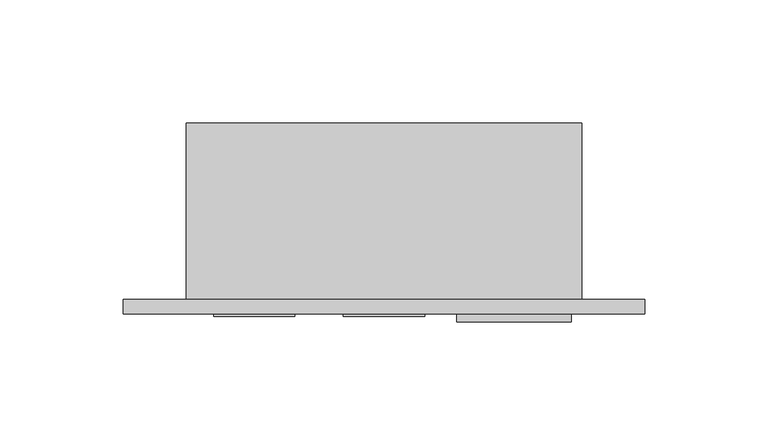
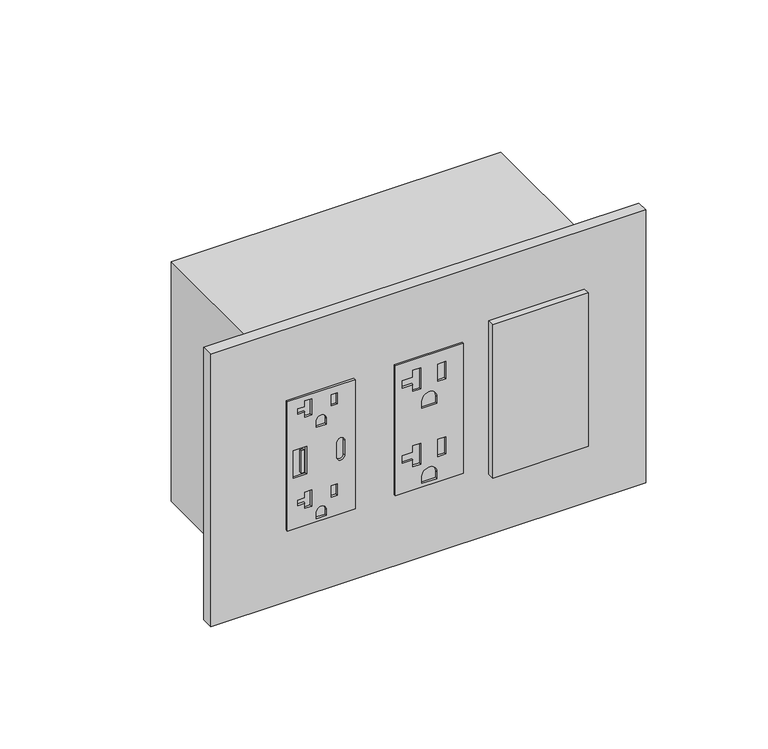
"""IFC4 building model written with IfcOpenShell, lengths in millimetres: proxy geometry, Electrical-Teknion-EPDMT_Vertical_Power_Data_Triple-R2019 : PD Vertical Module - Triple 20 Amp USB (A+C) & 20 Amp Standard."""

import ifcopenshell
import ifcopenshell.guid

model = None  # the IFC model being written
_history = None  # IfcOwnerHistory: only IFC2X3 demands one
_inside = {}  # id of a spatial element -> (the spatial element, [elements in it])
_under = {}  # id of a project, library or spatial element -> (it, [spatial elements below it])
_declared = {}  # id of a project -> (the project, [libraries it declares])
_typed = {}  # id of a type object -> (the type object, [elements of that type])
_made_of = {}  # id of a material, layer set ... -> (it, [elements and type objects made of it])


def new_model(schema):
    """Start an empty IFC model of exactly this schema.

    Asked for "IFC4X3", IfcOpenShell would pick the latest addendum, in which some entities
    have other attributes; the version numbers below select the first issue.
    IFC2X3 requires an IfcOwnerHistory on every rooted entity: one is made here for all.
    """
    global model, _history
    if schema == "IFC4X3":
        model = ifcopenshell.file(schema_version=(4, 3, 0, 0))
    else:
        model = ifcopenshell.file(schema=schema)
    _inside.clear()
    _under.clear()
    _declared.clear()
    _typed.clear()
    _made_of.clear()
    _history = None
    if model.schema == "IFC2X3":
        org = make("IfcOrganization", Name="unknown")
        user = make(
            "IfcPersonAndOrganization",
            ThePerson=make("IfcPerson", FamilyName="unknown"),
            TheOrganization=org,
        )
        app = make(
            "IfcApplication",
            ApplicationDeveloper=org,
            Version="unknown",
            ApplicationFullName="unknown",
            ApplicationIdentifier="unknown",
        )
        _history = make(
            "IfcOwnerHistory",
            OwningUser=user,
            OwningApplication=app,
            ChangeAction="ADDED",
            CreationDate=0,
        )
    return model


def make(cls, **values):
    """One entity of the class cls with the attributes given. An attribute that is None is left unset."""
    return model.create_entity(
        cls, **{name: value for name, value in values.items() if value is not None}
    )


def rooted(cls, **values):
    """An entity with a GlobalId (a new one), such as an element, a storey or a relation."""
    return make(cls, GlobalId=ifcopenshell.guid.new(), OwnerHistory=_history, **values)


def si_unit(unit_type, name, prefix=None):
    """IfcSIUnit, for example si_unit("LENGTHUNIT", "METRE", prefix="MILLI")."""
    return make("IfcSIUnit", UnitType=unit_type, Prefix=prefix, Name=name)


def assignment(units):
    """IfcUnitAssignment: the units of a project."""
    return None if units is None else make("IfcUnitAssignment", Units=units)


def point(xyz):
    """IfcCartesianPoint."""
    return None if xyz is None else make("IfcCartesianPoint", Coordinates=xyz)


def direction(xyz):
    """IfcDirection."""
    return None if xyz is None else make("IfcDirection", DirectionRatios=xyz)


def frame(location, z_axis=None, x_axis=None):
    """IfcAxis2Placement3D, a coordinate frame: its origin and axes. An axis left out is left unset."""
    return make(
        "IfcAxis2Placement3D",
        Location=point(location),
        Axis=direction(z_axis),
        RefDirection=direction(x_axis),
    )


def frame_2d(location, x_axis=None):
    """IfcAxis2Placement2D, a coordinate frame in the plane: its origin and x axis."""
    return make(
        "IfcAxis2Placement2D", Location=point(location), RefDirection=direction(x_axis)
    )


def origin():
    """The frame at (0, 0, 0) with its axes left unset."""
    return frame((0.0, 0.0, 0.0))


def place(relative_to, where):
    """IfcLocalPlacement: puts the frame where relative to a parent placement (None: the world)."""
    return make(
        "IfcLocalPlacement", PlacementRelTo=relative_to, RelativePlacement=where
    )


def context(
    kind, dimensions, precision=None, world=None, true_north=None, identifier=None
):
    """IfcGeometricRepresentationContext, for example the 3D "Model" context."""
    return make(
        "IfcGeometricRepresentationContext",
        ContextIdentifier=identifier,
        ContextType=kind,
        CoordinateSpaceDimension=dimensions,
        Precision=precision,
        WorldCoordinateSystem=world,
        TrueNorth=true_north,
    )


def project(units=None, contexts=None):
    """IfcProject with its units and contexts."""
    return rooted(
        "IfcProject",
        Name="project",
        RepresentationContexts=contexts,
        UnitsInContext=assignment(units),
    )


def spatial(cls, under=None, at=None, **own):
    """A site, building, storey or space (cls), placed at a placement, below another one or the project."""
    s = rooted(cls, ObjectPlacement=at, **own)
    if under is not None:
        _under.setdefault(under.id(), (under, []))[1].append(s)
    return s


def polyline(points):
    """IfcPolyline through the points."""
    return make("IfcPolyline", Points=[point(p) for p in points])


def circle_curve(where, radius):
    """IfcCircle in the frame where."""
    return make("IfcCircle", Position=where, Radius=radius)


def trimmed(basis, trim1, trim2, sense, master):
    """IfcTrimmedCurve: the piece of a basis curve between two trims."""
    return make(
        "IfcTrimmedCurve",
        BasisCurve=basis,
        Trim1=trim1,
        Trim2=trim2,
        SenseAgreement=sense,
        MasterRepresentation=master,
    )


def segment(curve, same_sense, transition):
    """IfcCompositeCurveSegment."""
    return make(
        "IfcCompositeCurveSegment",
        Transition=transition,
        SameSense=same_sense,
        ParentCurve=curve,
    )


def composite_curve(segments, self_intersect=None):
    """IfcCompositeCurve: segments joined end to end."""
    return make("IfcCompositeCurve", Segments=segments, SelfIntersect=self_intersect)


def outline(outer, holes=None, kind="AREA"):
    """IfcArbitraryClosedProfileDef: a profile drawn as a closed curve; with holes, ...WithVoids."""
    if holes is None:
        return make("IfcArbitraryClosedProfileDef", ProfileType=kind, OuterCurve=outer)
    return make(
        "IfcArbitraryProfileDefWithVoids",
        ProfileType=kind,
        OuterCurve=outer,
        InnerCurves=holes,
    )


def extrude(swept, where, along, depth):
    """IfcExtrudedAreaSolid: the profile swept, set in the frame where, extruded along a direction by depth."""
    return make(
        "IfcExtrudedAreaSolid",
        SweptArea=swept,
        Position=where,
        ExtrudedDirection=direction(along),
        Depth=depth,
    )


def shape(context_of_items, identifier, shape_type, items):
    """IfcShapeRepresentation: the items that make up one representation, for example the "Body"."""
    return make(
        "IfcShapeRepresentation",
        ContextOfItems=context_of_items,
        RepresentationIdentifier=identifier,
        RepresentationType=shape_type,
        Items=items,
    )


def source(mapping_origin, context_of_items, identifier, shape_type, items):
    """IfcRepresentationMap: a shape defined once, which mapped items show again and again."""
    return make(
        "IfcRepresentationMap",
        MappingOrigin=mapping_origin,
        MappedRepresentation=shape(context_of_items, identifier, shape_type, items),
    )


def transform(
    local_origin,
    x_axis=None,
    y_axis=None,
    z_axis=None,
    scale=None,
    scale2=None,
    scale3=None,
    uniform=True,
):
    """IfcCartesianTransformationOperator3D, or its non-uniform kind. x_axis, y_axis, z_axis: its Axis1, 2, 3."""
    if uniform:
        return make(
            "IfcCartesianTransformationOperator3D",
            Axis1=direction(x_axis),
            Axis2=direction(y_axis),
            LocalOrigin=point(local_origin),
            Scale=scale,
            Axis3=direction(z_axis),
        )
    return make(
        "IfcCartesianTransformationOperator3DnonUniform",
        Axis1=direction(x_axis),
        Axis2=direction(y_axis),
        LocalOrigin=point(local_origin),
        Scale=scale,
        Axis3=direction(z_axis),
        Scale2=scale2,
        Scale3=scale3,
    )


def mapped(mapping_source, mapping_target):
    """IfcMappedItem: shows the shape of a source again, moved by a transform."""
    return make(
        "IfcMappedItem", MappingSource=mapping_source, MappingTarget=mapping_target
    )


def made_of(thing, what):
    """Note that an element or type object is made of a material, layer set ...; save() writes the relation."""
    if what is not None:
        _made_of.setdefault(what.id(), (what, []))[1].append(thing)
    return thing


def element(
    cls,
    number,
    at=None,
    inside=None,
    cuts=None,
    type_object=None,
    material=None,
    context=None,
    identifier="Body",
    shape_type=None,
    held_by="IfcProductDefinitionShape",
    body=None,
    shapes=None,
    **own,
):
    """One element of the class cls, such as IfcWall. Its Tag is "e" and its number.

    at: its placement. inside: the storey or other place that contains it. cuts: it is an
    opening in that element (IfcRelVoidsElement). A single representation is given by context,
    identifier, shape_type and body (its items); several are given by shapes. held_by: the class
    of the entity that holds the representations. save() writes the other relations.
    """
    e = rooted(cls, Tag="e%d" % number, ObjectPlacement=at, **own)
    if body is not None:
        shapes = [shape(context, identifier, shape_type, body)]
    if shapes is not None:
        e.Representation = make(held_by, Representations=shapes)
    if inside is not None:
        _inside.setdefault(inside.id(), (inside, []))[1].append(e)
    if cuts is not None:
        rooted(
            "IfcRelVoidsElement", RelatingBuildingElement=cuts, RelatedOpeningElement=e
        )
    if type_object is not None:
        _typed.setdefault(type_object.id(), (type_object, []))[1].append(e)
    return made_of(e, material)


def aggregate(whole, parts):
    """IfcRelAggregates: a whole, such as a stair, and the parts it consists of."""
    return rooted("IfcRelAggregates", RelatingObject=whole, RelatedObjects=parts)


def save(model, path):
    """Write the relations noted so far, then the file.

    IfcRelAggregates (storeys below a building ...), IfcRelContainedInSpatialStructure (elements
    in a storey), IfcRelDefinesByType, IfcRelAssociatesMaterial and IfcRelDeclares: one each for
    every whole, place, type object, material and project.
    """
    for whole, parts in _under.values():
        aggregate(whole, parts)
    for where, things in _inside.values():
        rooted(
            "IfcRelContainedInSpatialStructure",
            RelatedElements=things,
            RelatingStructure=where,
        )
    for kind, things in _typed.values():
        rooted("IfcRelDefinesByType", RelatedObjects=things, RelatingType=kind)
    for what, things in _made_of.values():
        rooted("IfcRelAssociatesMaterial", RelatedObjects=things, RelatingMaterial=what)
    for by, libraries in _declared.values():
        rooted("IfcRelDeclares", RelatingContext=by, RelatedDefinitions=libraries)
    model.write(path)


def electrical_fixtures_b57f04e2(model_context):
    return source(origin(), model_context, "Body", "SweptSolid", [
        extrude(outline(polyline([(490.474, 11.0998), (423.926, 11.0998), (423.926, 44.0944), (490.474, 44.0944), (490.474, 11.0998)]), holes=[polyline([(464.2485, 14.0236066), (464.2485, 20.5246617), (450.1515, 20.5246617), (450.1515, 14.0236066), (464.2485, 14.0236066)]), composite_curve([segment(trimmed(circle_curve(frame_2d((460.9846, 37.1348)), 1.905), [point((460.9846, 35.2298))], [point((460.9846, 39.0398))], True, "CARTESIAN"), True, "CONTINUOUS"), segment(polyline([(460.9846, 39.0398), (453.4154, 39.0398)]), True, "CONTINUOUS"), segment(trimmed(circle_curve(frame_2d((453.4154, 37.1348)), 1.905), [point((453.4154, 39.0398))], [point((453.4154, 35.2298))], True, "CARTESIAN"), True, "CONTINUOUS"), segment(polyline([(453.4154, 35.2298), (460.9846, 35.2298)]), True, "CONTINUOUS")], self_intersect=False), composite_curve([segment(polyline([(425.45, 30.0609), (425.45, 25.1333), (428.5488, 25.1333)]), True, "CONTINUOUS"), segment(trimmed(circle_curve(frame_2d((428.5488, 27.5971)), 2.4638), [point((428.5488, 25.1333))], [point((428.5488, 30.0609))], True, "CARTESIAN"), True, "CONTINUOUS"), segment(polyline([(428.5488, 30.0609), (425.45, 30.0609)]), True, "CONTINUOUS")], self_intersect=False), polyline([(441.0202, 22.9616), (432.7211661, 22.9616), (432.7211661, 19.6342), (435.4043639, 19.6342), (435.4043639, 16.1036), (438.1419812, 16.1036), (438.1419812, 19.6342), (441.0202, 19.6342), (441.0202, 22.9616)]), composite_curve([segment(polyline([(472.44, 25.1333), (475.5388, 25.1333)]), True, "CONTINUOUS"), segment(trimmed(circle_curve(frame_2d((475.5388, 27.5971)), 2.4638), [point((475.5388, 25.1333))], [point((475.5388, 30.0609))], True, "CARTESIAN"), True, "CONTINUOUS"), segment(polyline([(475.5388, 30.0609), (472.44, 30.0609), (472.44, 25.1333)]), True, "CONTINUOUS")], self_intersect=False), polyline([(480.9574649, 32.4358), (486.7806175, 32.4358), (486.7806175, 35.41014), (480.9574649, 35.41014), (480.9574649, 32.4358)]), polyline([(433.9674649, 32.4358), (439.7906175, 32.4358), (439.7906175, 35.41014), (433.9674649, 35.41014), (433.9674649, 32.4358)]), polyline([(488.0102, 22.9616), (479.7111661, 22.9616), (479.7111661, 19.6342), (482.3943639, 19.6342), (482.3943639, 16.1036), (485.1319812, 16.1036), (485.1319812, 19.6342), (488.0102, 19.6342), (488.0102, 22.9616)])]), frame((0.0, -6.9294746, 0.0), z_axis=(0.0, 1.0, 0.0), x_axis=(0.0, 0.0, 1.0)), (0.0, 0.0, 1.0), 1.0366746),
        extrude(outline(polyline([(19.314835, -6.9294746), (17.7939058, -6.9294746), (17.7939058, -5.8928), (19.314835, -5.8928), (19.314835, -6.9294746)])), frame((0.0, 0.0, 451.4741546), z_axis=(0.0, 0.0, 1.0), x_axis=(1.0, 0.0, 0.0)), (0.0, 0.0, 1.0), 11.4436352),
        extrude(outline(polyline([(490.6772, 96.7613), (490.6772, 63.7667), (423.7228, 63.7667), (423.7228, 96.7613), (490.6772, 96.7613)]), holes=[polyline([(485.2924, 76.1111), (474.472, 76.1111), (474.472, 72.2757), (477.9518, 72.2757), (477.9518, 67.1703), (481.8126, 67.1703), (481.8126, 72.2757), (485.2924, 72.2757), (485.2924, 76.1111)]), polyline([(484.3145, 88.2777), (475.4499, 88.2777), (475.4499, 84.4423), (484.3145, 84.4423), (484.3145, 88.2777)]), composite_curve([segment(polyline([(464.2866, 83.8962), (464.2866, 76.6318), (467.9188, 76.6318)]), True, "CONTINUOUS"), segment(trimmed(circle_curve(frame_2d((467.9188, 80.264)), 3.6322), [point((467.9188, 76.6318))], [point((467.9188, 83.8962))], True, "CARTESIAN"), True, "CONTINUOUS"), segment(polyline([(467.9188, 83.8962), (464.2866, 83.8962)]), True, "CONTINUOUS")], self_intersect=False), polyline([(446.5574, 76.1111), (435.737, 76.1111), (435.737, 72.2757), (439.2168, 72.2757), (439.2168, 67.1703), (443.0776, 67.1703), (443.0776, 72.2757), (446.5574, 72.2757), (446.5574, 76.1111)]), polyline([(445.5795, 88.2777), (436.7149, 88.2777), (436.7149, 84.4423), (445.5795, 84.4423), (445.5795, 88.2777)]), composite_curve([segment(polyline([(425.5516, 83.8962), (425.5516, 76.6318), (429.1838, 76.6318)]), True, "CONTINUOUS"), segment(trimmed(circle_curve(frame_2d((429.1838, 80.264)), 3.6322), [point((429.1838, 76.6318))], [point((429.1838, 83.8962))], True, "CARTESIAN"), True, "CONTINUOUS"), segment(polyline([(429.1838, 83.8962), (425.5516, 83.8962)]), True, "CONTINUOUS")], self_intersect=False)]), frame((0.0, -6.9294746, 0.0), z_axis=(0.0, 1.0, 0.0), x_axis=(0.0, 0.0, 1.0)), (0.0, 0.0, 1.0), 1.0366746),
        extrude(outline(polyline([(109.8296, -5.8928), (156.3624, -5.8928), (156.3624, -9.0678), (109.8296, -9.0678), (109.8296, -5.8928)])), frame((0.0, 0.0, 417.9922742), z_axis=(0.0, 0.0, 1.0), x_axis=(1.0, 0.0, 0.0)), (0.0, 0.0, 1.0), 79.0448),
        extrude(outline(polyline([(-25.6794, 0.0), (186.2074, 0.0), (186.2074, -5.8928), (-25.6794, -5.8928), (-25.6794, 0.0)])), frame((0.0, 0.0, 387.0198), z_axis=(0.0, 0.0, 1.0), x_axis=(1.0, 0.0, 0.0)), (0.0, 0.0, 1.0), 140.3604),
        extrude(outline(polyline([(160.528, 0.0), (0.0, 0.0), (0.0, 71.7296), (160.528, 71.7296), (160.528, 0.0)])), frame((0.0, 0.0, 395.4526), z_axis=(0.0, 0.0, 1.0), x_axis=(1.0, 0.0, 0.0)), (0.0, 0.0, 1.0), 123.4948),
    ])


if __name__ == "__main__":
    model = new_model("IFC4")
    model_context = context("Model", 3, world=origin())
    ifc_project = project(units=[si_unit("LENGTHUNIT", "METRE", prefix="MILLI")], contexts=[model_context])
    site = spatial("IfcSite", under=ifc_project)
    building = spatial("IfcBuilding", under=site)
    placement = place(None, origin())
    electrical_fixtures_shape = electrical_fixtures_b57f04e2(model_context)
    element("IfcBuildingElementProxy", 1, Name="Electrical-Teknion-EPDMT_Vertical_Power_Data_Triple-R2019 : PD Vertical Module - Triple 20 Amp USB (A+C) & 20 Amp Standard", ObjectType="Electrical-Teknion-EPDMT_Vertical_Power_Data_Triple-R2019 : PD Vertical Module - Triple 20 Amp USB (A+C) & 20 Amp Standard", at=placement, inside=building, context=model_context, shape_type="MappedRepresentation", body=[
        mapped(electrical_fixtures_shape, transform((0.0, 0.0, 0.0), x_axis=(1.0, 0.0, 0.0), y_axis=(0.0, 1.0, 0.0), z_axis=(0.0, 0.0, 1.0))),
    ])
    save(model, "model.ifc")
